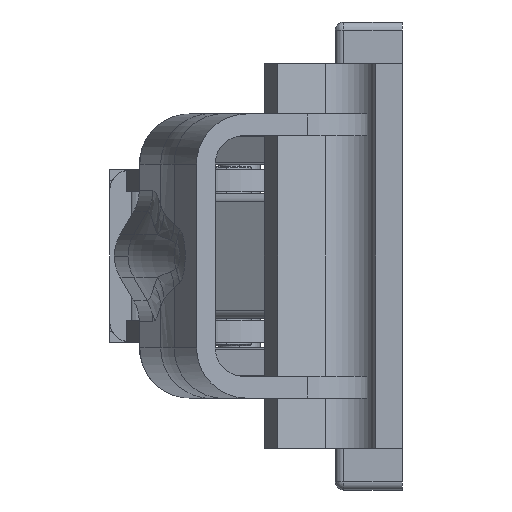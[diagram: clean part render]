
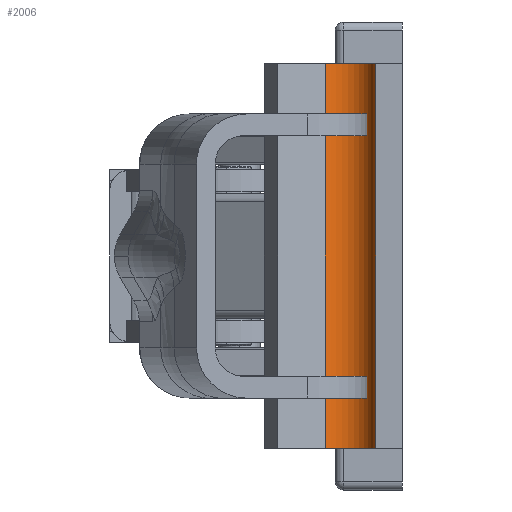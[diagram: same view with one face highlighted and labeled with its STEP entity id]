
A CAD part, left-side view. The second image highlights one B-rep face of the part: STEP entity #2006.
In plain terms, the highlighted cylindrical face has radius 4 mm (diameter 8 mm), a partial arc.
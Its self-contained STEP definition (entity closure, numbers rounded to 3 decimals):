
#441 = DIRECTION ( 'NONE',  ( 0., 0., -1. ) ) ;
#699 = CARTESIAN_POINT ( 'NONE',  ( -7.2, 7.2, -23. ) ) ;
#856 = CARTESIAN_POINT ( 'NONE',  ( -3.727, 9.185, -23. ) ) ;
#1022 = CYLINDRICAL_SURFACE ( 'NONE', #2636, 4. ) ;
#1203 = DIRECTION ( 'NONE',  ( 0., 0., -1. ) ) ;
#1463 = LINE ( 'NONE', #2278, #6307 ) ;
#1516 = CARTESIAN_POINT ( 'NONE',  ( -3.727, 9.185, 23. ) ) ;
#1565 = FACE_OUTER_BOUND ( 'NONE', #9423, .T. ) ;
#1636 = AXIS2_PLACEMENT_3D ( 'NONE', #8720, #7672, #6606 ) ;
#1682 = ORIENTED_EDGE ( 'NONE', *, *, #8408, .T. ) ;
#1903 = EDGE_CURVE ( 'NONE', #5575, #4909, #1463, .T. ) ;
#2006 = ADVANCED_FACE ( 'NONE', ( #1565 ), #1022, .F. ) ;
#2278 = CARTESIAN_POINT ( 'NONE',  ( -7.2, 3.2, 23. ) ) ;
#2583 = LINE ( 'NONE', #1516, #5692 ) ;
#2592 = VERTEX_POINT ( 'NONE', #856 ) ;
#2636 = AXIS2_PLACEMENT_3D ( 'NONE', #5820, #4769, #3722 ) ;
#3722 = DIRECTION ( 'NONE',  ( -1., 0., 0. ) ) ;
#4142 = ORIENTED_EDGE ( 'NONE', *, *, #7077, .F. ) ;
#4598 = ORIENTED_EDGE ( 'NONE', *, *, #9081, .T. ) ;
#4670 = CARTESIAN_POINT ( 'NONE',  ( -7.2, 3.2, 23. ) ) ;
#4742 = CARTESIAN_POINT ( 'NONE',  ( -7.2, 3.2, -23. ) ) ;
#4769 = DIRECTION ( 'NONE',  ( 0., 0., -1. ) ) ;
#4909 = VERTEX_POINT ( 'NONE', #4742 ) ;
#5061 = AXIS2_PLACEMENT_3D ( 'NONE', #699, #6839, #5765 ) ;
#5289 = VERTEX_POINT ( 'NONE', #8715 ) ;
#5575 = VERTEX_POINT ( 'NONE', #4670 ) ;
#5692 = VECTOR ( 'NONE', #441, 1000. ) ;
#5765 = DIRECTION ( 'NONE',  ( 1., 0., 0. ) ) ;
#5820 = CARTESIAN_POINT ( 'NONE',  ( -7.2, 7.2, 23. ) ) ;
#6307 = VECTOR ( 'NONE', #1203, 1000. ) ;
#6606 = DIRECTION ( 'NONE',  ( 1., 0., 0. ) ) ;
#6839 = DIRECTION ( 'NONE',  ( 0., 0., -1. ) ) ;
#7077 = EDGE_CURVE ( 'NONE', #5289, #5575, #8421, .T. ) ;
#7672 = DIRECTION ( 'NONE',  ( 0., 0., -1. ) ) ;
#8408 = EDGE_CURVE ( 'NONE', #2592, #4909, #9663, .T. ) ;
#8421 = CIRCLE ( 'NONE', #1636, 4. ) ;
#8715 = CARTESIAN_POINT ( 'NONE',  ( -3.727, 9.185, 23. ) ) ;
#8720 = CARTESIAN_POINT ( 'NONE',  ( -7.2, 7.2, 23. ) ) ;
#9081 = EDGE_CURVE ( 'NONE', #5289, #2592, #2583, .T. ) ;
#9423 = EDGE_LOOP ( 'NONE', ( #1682, #10210, #4142, #4598 ) ) ;
#9663 = CIRCLE ( 'NONE', #5061, 4. ) ;
#10210 = ORIENTED_EDGE ( 'NONE', *, *, #1903, .F. ) ;
